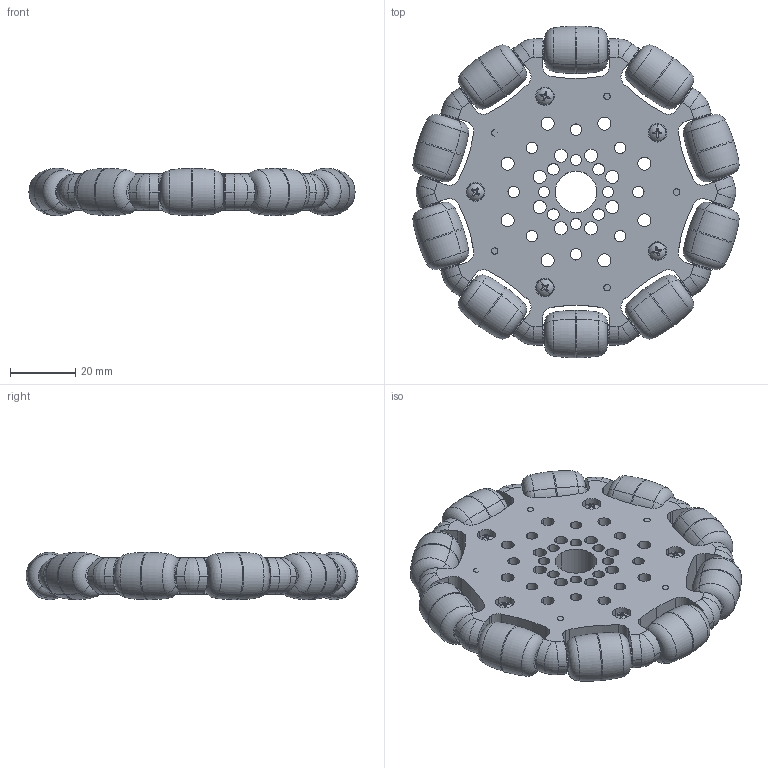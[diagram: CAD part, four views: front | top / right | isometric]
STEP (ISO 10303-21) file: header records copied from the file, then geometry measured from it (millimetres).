
FILE_DESCRIPTION (( 'STEP AP203' ), '1' );
FILE_NAME ('595671 Part.STEP', '2016-12-06T20:07:27', ( '' ), ( '' ), 'SwSTEP 2.0', 'SolidWorks 2016', '' );
FILE_SCHEMA (( 'CONFIG_CONTROL_DESIGN' ));
Products named in the file (1): 595671 Part
Bounding box: 99.7 x 101.46 x 14.59 mm (x, y, z)
Volume: 73307.7 mm3; surface area: 35400 mm2
Topology: 21 solids, 21 shells, 1186 faces, 3205 edges, 2065 vertices
Faces by surface type: cylinder 494, plane 412, torus 230, bspline 30, sphere 20
Entity records: 51537 total; most frequent: CARTESIAN_POINT 21557, DIRECTION 6436, ORIENTED_EDGE 6410, EDGE_CURVE 3205, AXIS2_PLACEMENT_3D 2658, VERTEX_POINT 2065, CIRCLE 1501, EDGE_LOOP 1396
